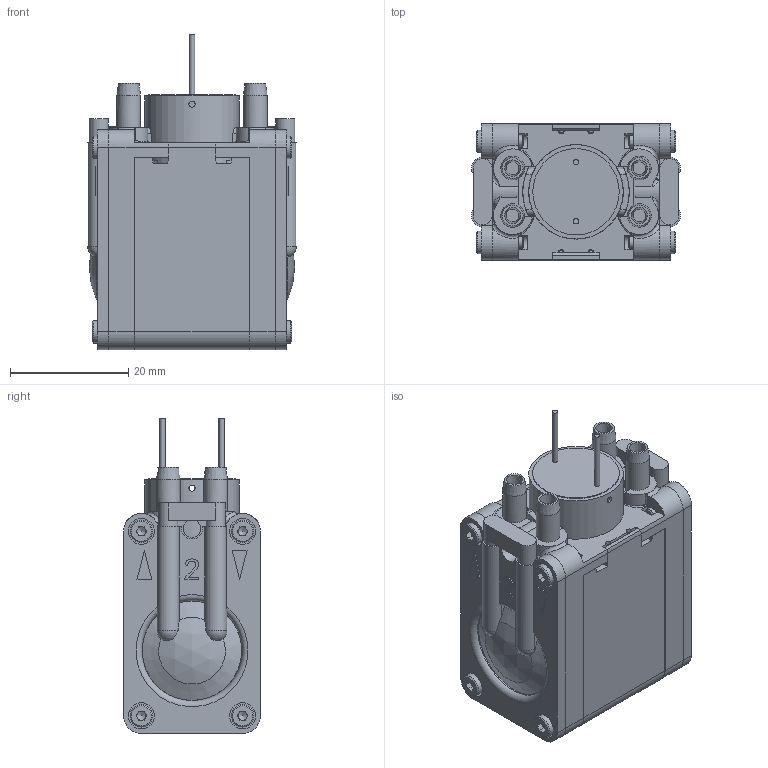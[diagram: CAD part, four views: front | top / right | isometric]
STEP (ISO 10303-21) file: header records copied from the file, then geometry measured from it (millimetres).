
FILE_DESCRIPTION (( 'STEP AP214' ), '1' );
FILE_NAME ('D3k rev 1.STEP', '2016-03-11T10:21:58', ( 'DELL' ), ( '' ), 'SwSTEP 2.0', 'SolidWorks 2015', '' );
FILE_SCHEMA (( 'AUTOMOTIVE_DESIGN' ));
Length unit declared in the file: millimetre
Products named in the file (1): D3k rev 1
Bounding box: 35.29 x 23.1 x 53.26 mm (x, y, z)
Surface area: 11305 mm2 (no closed solid volume)
Topology: 0 solids, 27 shells, 439 faces, 1508 edges, 1041 vertices
Faces by surface type: plane 240, cylinder 108, cone 34, bspline 31, torus 24, sphere 2
Full cylindrical faces by diameter (mm): 0.9 x2, 1.04 x2, 2 x5, 3 x2, 3.2 x4, 3.8 x8, 4 x4, 4.4 x8, 14.6 x1, 15.95 x1
Entity records: 22670 total; most frequent: CARTESIAN_POINT 5566, DIRECTION 2458, ORIENTED_EDGE 2325, EDGE_CURVE 1402, VERTEX_POINT 1010, AXIS2_PLACEMENT_3D 850, LINE 758, VECTOR 758
